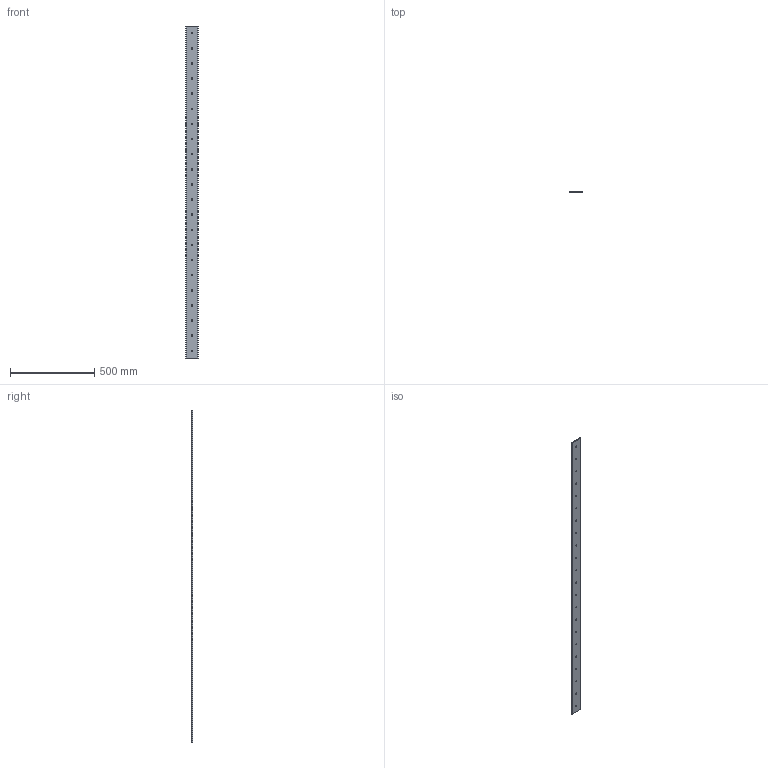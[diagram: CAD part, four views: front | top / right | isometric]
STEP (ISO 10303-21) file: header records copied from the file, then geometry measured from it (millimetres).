
FILE_DESCRIPTION(('STEP AP203'),'1');
FILE_NAME('slide_m76l1976p1.stp','2022-07-04T02:21:06',('TraceParts'),('TraceParts S.A.'),'Spatial InterOp 3D',' ',' ');
FILE_SCHEMA(('CONFIG_CONTROL_DESIGN'));
Length unit declared in the file: millimetre
Products named in the file (1): 1
Bounding box: 75.68 x 6.12 x 1976 mm (x, y, z)
Volume: 866389.9 mm3; surface area: 310259.8 mm2
Topology: 1 solids, 1 shells, 56 faces, 162 edges, 108 vertices
Faces by surface type: cylinder 48, plane 8
Entity records: 2034 total; most frequent: DIRECTION 372, CARTESIAN_POINT 327, ORIENTED_EDGE 324, EDGE_CURVE 162, AXIS2_PLACEMENT_3D 153, VERTEX_POINT 108, EDGE_LOOP 100, CIRCLE 96
